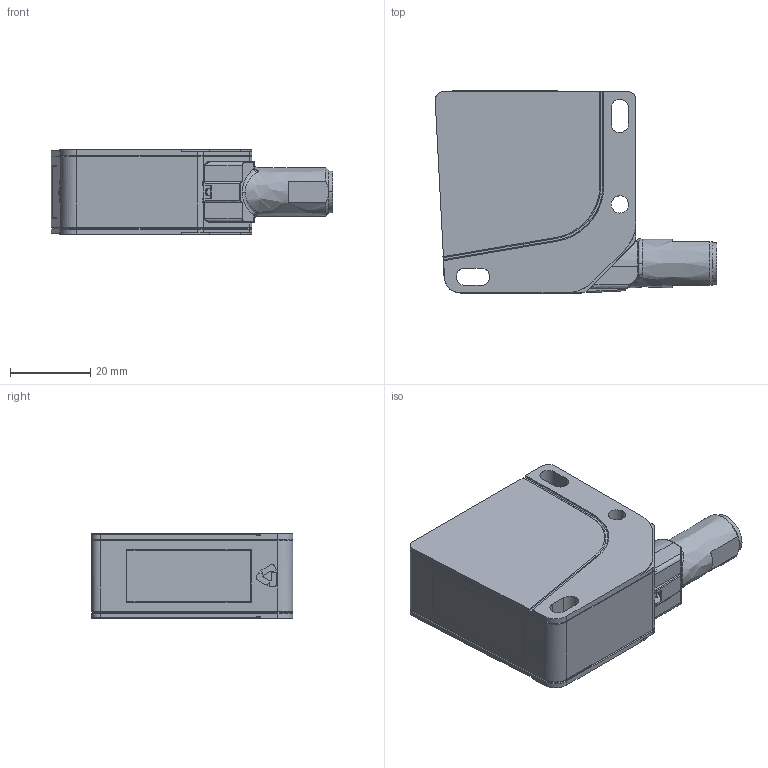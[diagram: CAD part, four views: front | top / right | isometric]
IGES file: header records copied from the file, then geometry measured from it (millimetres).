
Global section: file name: E:\temp\ODSL9_Stecker_hinten.igs; preprocessor: I-DEAS 3D IGES Translator 11; date: 20091008.084112; units: millimetre
Bounding box: 69.99 x 50.2 x 21 mm (x, y, z)
Volume: 49661.6 mm3; surface area: 11443.3 mm2
Topology: 1 solids, 1 shells, 412 faces, 1034 edges, 663 vertices
Faces by surface type: bspline 412
